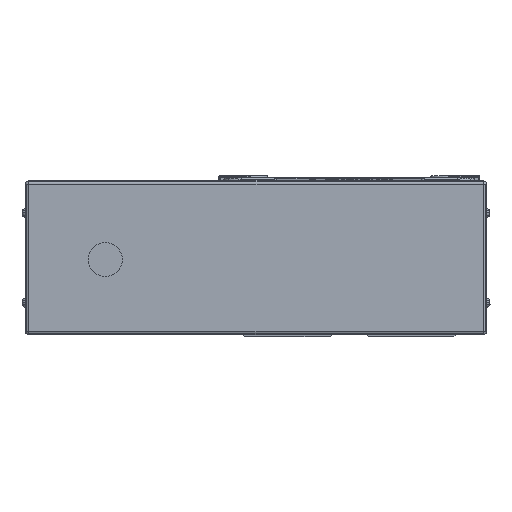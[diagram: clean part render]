
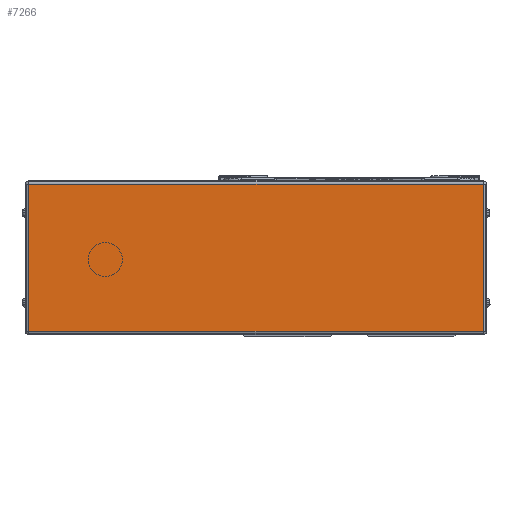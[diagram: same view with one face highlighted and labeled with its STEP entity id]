
A CAD part, left-side view. The second image highlights one B-rep face of the part: STEP entity #7266.
In plain terms, the highlighted planar face has unit normal (-1, 0, 0).
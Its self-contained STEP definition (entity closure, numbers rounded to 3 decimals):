
#7266=ADVANCED_FACE('',(#14860),#14861,.F.);
#14860=FACE_OUTER_BOUND('',#24117,.T.);
#14861=PLANE('',#24118);
#24117=EDGE_LOOP('',(#44776,#44777,#44778,#44779));
#24118=AXIS2_PLACEMENT_3D('',#44780,#44781,#44782);
#44776=ORIENTED_EDGE('',*,*,#52698,.T.);
#44777=ORIENTED_EDGE('',*,*,#53353,.T.);
#44778=ORIENTED_EDGE('',*,*,#54419,.T.);
#44779=ORIENTED_EDGE('',*,*,#50463,.T.);
#44780=CARTESIAN_POINT('',(-45.,180.5,0.));
#44781=DIRECTION('',(1.0,0.,0.));
#44782=DIRECTION('',(0.,0.,1.0));
#50463=EDGE_CURVE('',#61439,#61437,#61440,.T.);
#52698=EDGE_CURVE('',#61437,#64758,#64760,.T.);
#53353=EDGE_CURVE('',#64758,#58308,#65602,.T.);
#54419=EDGE_CURVE('',#58308,#61439,#66907,.T.);
#58308=VERTEX_POINT('',#71874);
#61437=VERTEX_POINT('',#76380);
#61439=VERTEX_POINT('',#76382);
#61440=LINE('',#76383,#76384);
#64758=VERTEX_POINT('',#81483);
#64760=LINE('',#81485,#81486);
#65602=LINE('',#82851,#82852);
#66907=LINE('',#85157,#85158);
#71874=CARTESIAN_POINT('',(-45.,-74.5,-41.));
#76380=CARTESIAN_POINT('',(-45.,178.5,41.));
#76382=CARTESIAN_POINT('',(-45.,-74.5,41.));
#76383=CARTESIAN_POINT('',(-45.,180.5,41.));
#76384=VECTOR('',#92044,10.0);
#81483=CARTESIAN_POINT('',(-45.,178.5,-41.));
#81485=CARTESIAN_POINT('',(-45.,178.5,0.));
#81486=VECTOR('',#95045,10.0);
#82851=CARTESIAN_POINT('',(-45.,180.5,-41.));
#82852=VECTOR('',#95838,10.0);
#85157=CARTESIAN_POINT('',(-45.,-74.5,0.));
#85158=VECTOR('',#97053,10.0);
#92044=DIRECTION('',(0.,1.0,0.));
#95045=DIRECTION('',(0.,0.,-1.0));
#95838=DIRECTION('',(0.,-1.0,0.));
#97053=DIRECTION('',(0.,0.,1.0));
